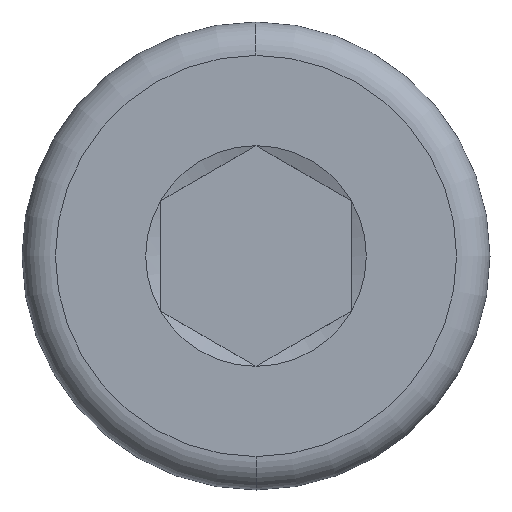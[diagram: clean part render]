
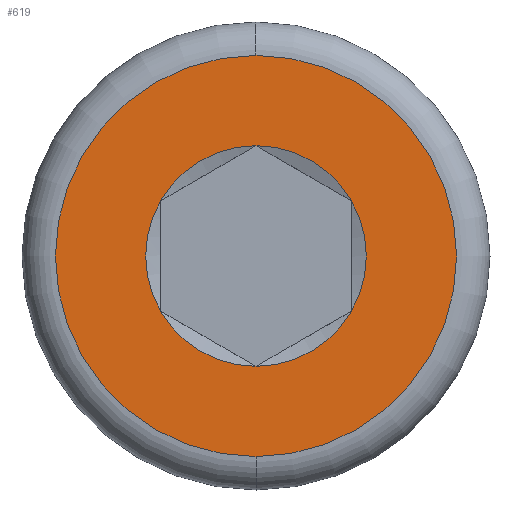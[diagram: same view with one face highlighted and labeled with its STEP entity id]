
A CAD part, left-side view. The second image highlights one B-rep face of the part: STEP entity #619.
In plain terms, the highlighted planar face has unit normal (-1, 0, 0).
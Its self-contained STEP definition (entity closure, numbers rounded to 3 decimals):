
#1 = CARTESIAN_POINT ( 'NONE',  ( 0., 0., 0. ) ) ;
#6 = ORIENTED_EDGE ( 'NONE', *, *, #61, .T. ) ;
#27 = DIRECTION ( 'NONE',  ( -1., 0., 0. ) ) ;
#28 = EDGE_CURVE ( 'NONE', #150, #384, #293, .T. ) ;
#41 = CARTESIAN_POINT ( 'NONE',  ( 0., 0., 0. ) ) ;
#46 = DIRECTION ( 'NONE',  ( 1., 0., 0. ) ) ;
#61 = EDGE_CURVE ( 'NONE', #384, #301, #491, .T. ) ;
#71 = CARTESIAN_POINT ( 'NONE',  ( 0., 0., 0. ) ) ;
#81 = AXIS2_PLACEMENT_3D ( 'NONE', #1, #300, #510 ) ;
#88 = DIRECTION ( 'NONE',  ( 1., 0., 0. ) ) ;
#110 = CIRCLE ( 'NONE', #622, 2.309 ) ;
#112 = EDGE_CURVE ( 'NONE', #301, #168, #136, .T. ) ;
#114 = DIRECTION ( 'NONE',  ( 0., 0., -1. ) ) ;
#124 = CARTESIAN_POINT ( 'NONE',  ( 0., 2., 1.155 ) ) ;
#131 = DIRECTION ( 'NONE',  ( 1., 0., 0. ) ) ;
#134 = CARTESIAN_POINT ( 'NONE',  ( 0., 0., 0. ) ) ;
#136 = CIRCLE ( 'NONE', #81, 2.309 ) ;
#143 = CARTESIAN_POINT ( 'NONE',  ( 0., 0., 0. ) ) ;
#146 = VERTEX_POINT ( 'NONE', #303 ) ;
#150 = VERTEX_POINT ( 'NONE', #124 ) ;
#168 = VERTEX_POINT ( 'NONE', #173 ) ;
#173 = CARTESIAN_POINT ( 'NONE',  ( 0., -2., -1.155 ) ) ;
#185 = AXIS2_PLACEMENT_3D ( 'NONE', #71, #131, #315 ) ;
#190 = CARTESIAN_POINT ( 'NONE',  ( 0., -2., 1.155 ) ) ;
#196 = ORIENTED_EDGE ( 'NONE', *, *, #670, .F. ) ;
#200 = AXIS2_PLACEMENT_3D ( 'NONE', #41, #418, #573 ) ;
#206 = CIRCLE ( 'NONE', #185, 4.2 ) ;
#210 = ORIENTED_EDGE ( 'NONE', *, *, #348, .T. ) ;
#212 = DIRECTION ( 'NONE',  ( 1., 0., 0. ) ) ;
#215 = DIRECTION ( 'NONE',  ( 1., 0., 0. ) ) ;
#218 = CARTESIAN_POINT ( 'NONE',  ( 0., 0., -2.309 ) ) ;
#221 = FACE_OUTER_BOUND ( 'NONE', #420, .T. ) ;
#228 = VERTEX_POINT ( 'NONE', #391 ) ;
#234 = CIRCLE ( 'NONE', #251, 2.309 ) ;
#240 = CIRCLE ( 'NONE', #502, 4.2 ) ;
#242 = DIRECTION ( 'NONE',  ( 0., 0., -1. ) ) ;
#251 = AXIS2_PLACEMENT_3D ( 'NONE', #143, #88, #242 ) ;
#262 = EDGE_CURVE ( 'NONE', #561, #150, #326, .T. ) ;
#263 = AXIS2_PLACEMENT_3D ( 'NONE', #134, #212, #283 ) ;
#271 = ORIENTED_EDGE ( 'NONE', *, *, #547, .T. ) ;
#277 = ORIENTED_EDGE ( 'NONE', *, *, #262, .T. ) ;
#283 = DIRECTION ( 'NONE',  ( 0., 0., -1. ) ) ;
#286 = CARTESIAN_POINT ( 'NONE',  ( 0., 0., 2.309 ) ) ;
#293 = CIRCLE ( 'NONE', #455, 2.309 ) ;
#296 = DIRECTION ( 'NONE',  ( 0., 0., -1. ) ) ;
#300 = DIRECTION ( 'NONE',  ( 1., 0., 0. ) ) ;
#301 = VERTEX_POINT ( 'NONE', #190 ) ;
#303 = CARTESIAN_POINT ( 'NONE',  ( 0., 0., 4.2 ) ) ;
#305 = DIRECTION ( 'NONE',  ( 0., 0., -1. ) ) ;
#315 = DIRECTION ( 'NONE',  ( 0., 0., -1. ) ) ;
#326 = CIRCLE ( 'NONE', #263, 2.309 ) ;
#348 = EDGE_CURVE ( 'NONE', #427, #561, #234, .T. ) ;
#351 = DIRECTION ( 'NONE',  ( 1., 0., 0. ) ) ;
#374 = CARTESIAN_POINT ( 'NONE',  ( 0., 0., 0. ) ) ;
#384 = VERTEX_POINT ( 'NONE', #286 ) ;
#391 = CARTESIAN_POINT ( 'NONE',  ( 0., 0., -4.2 ) ) ;
#401 = AXIS2_PLACEMENT_3D ( 'NONE', #435, #27, #534 ) ;
#418 = DIRECTION ( 'NONE',  ( 1., 0., 0. ) ) ;
#420 = EDGE_LOOP ( 'NONE', ( #196, #636 ) ) ;
#427 = VERTEX_POINT ( 'NONE', #218 ) ;
#431 = EDGE_LOOP ( 'NONE', ( #640, #6, #616, #271, #210, #277 ) ) ;
#435 = CARTESIAN_POINT ( 'NONE',  ( 0., 0., 0. ) ) ;
#455 = AXIS2_PLACEMENT_3D ( 'NONE', #613, #351, #296 ) ;
#463 = CARTESIAN_POINT ( 'NONE',  ( 0., 0., 0. ) ) ;
#491 = CIRCLE ( 'NONE', #200, 2.309 ) ;
#502 = AXIS2_PLACEMENT_3D ( 'NONE', #463, #46, #305 ) ;
#510 = DIRECTION ( 'NONE',  ( 0., 0., -1. ) ) ;
#534 = DIRECTION ( 'NONE',  ( 0., 0., 1. ) ) ;
#536 = EDGE_CURVE ( 'NONE', #146, #228, #240, .T. ) ;
#547 = EDGE_CURVE ( 'NONE', #168, #427, #110, .T. ) ;
#561 = VERTEX_POINT ( 'NONE', #626 ) ;
#573 = DIRECTION ( 'NONE',  ( 0., 0., -1. ) ) ;
#592 = PLANE ( 'NONE',  #401 ) ;
#613 = CARTESIAN_POINT ( 'NONE',  ( 0., 0., 0. ) ) ;
#616 = ORIENTED_EDGE ( 'NONE', *, *, #112, .T. ) ;
#619 = ADVANCED_FACE ( 'NONE', ( #641, #221 ), #592, .T. ) ;
#622 = AXIS2_PLACEMENT_3D ( 'NONE', #374, #215, #114 ) ;
#626 = CARTESIAN_POINT ( 'NONE',  ( 0., 2., -1.155 ) ) ;
#636 = ORIENTED_EDGE ( 'NONE', *, *, #536, .F. ) ;
#640 = ORIENTED_EDGE ( 'NONE', *, *, #28, .T. ) ;
#641 = FACE_BOUND ( 'NONE', #431, .T. ) ;
#670 = EDGE_CURVE ( 'NONE', #228, #146, #206, .T. ) ;
